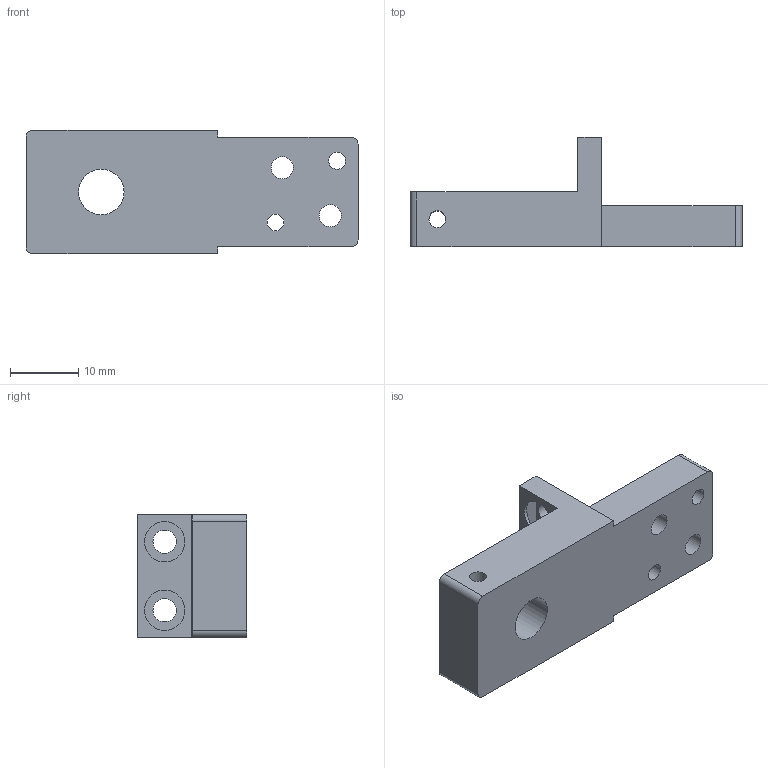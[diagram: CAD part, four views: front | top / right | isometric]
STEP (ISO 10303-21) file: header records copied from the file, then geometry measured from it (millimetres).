
FILE_DESCRIPTION(/* description */ ('','CAx-IF Rec.Pracs.---Representation and Presentation of Product Manufacturing Information (PMI)---4.0---2014-10-13'),/* implementation_level */ '2;1');
FILE_NAME(/* name */ 'G:\Alle CAD Daten\CAMTEC_2021_Pack and Go\PSU CPS-i3000 - CPS-i2000\2051035002.stp',/* time_stamp */ '2020-09-15T19:29:46+02:00',/* author */ ('rryba'),/* organization */ (''),/* preprocessor_version */ 'ST-DEVELOPER v18.1',/* originating_system */ 'Autodesk Inventor 2021',/* authorisation */ '');
FILE_SCHEMA (('AP242_MANAGED_MODEL_BASED_3D_ENGINEERING_MIM_LF { 1 0 10303 442 1 1 4 }'));
Length unit declared in the file: millimetre
Products named in the file (1): 2051035002
Bounding box: 48.5 x 16 x 18 mm (x, y, z)
Volume: 5876.3 mm3; surface area: 3401.1 mm2
Topology: 1 solids, 1 shells, 28 faces, 104 edges, 106 vertices
Faces by surface type: cylinder 14, plane 12, cone 2
Full cylindrical faces by diameter (mm): 2.459 x3, 3.242 x2, 3.4 x2, 5.9 x2, 6.647 x1
Entity records: 1112 total; most frequent: CARTESIAN_POINT 209, DIRECTION 164, ORIENTED_EDGE 148, EDGE_CURVE 74, AXIS2_PLACEMENT_3D 59, VERTEX_POINT 48, LINE 46, VECTOR 46
